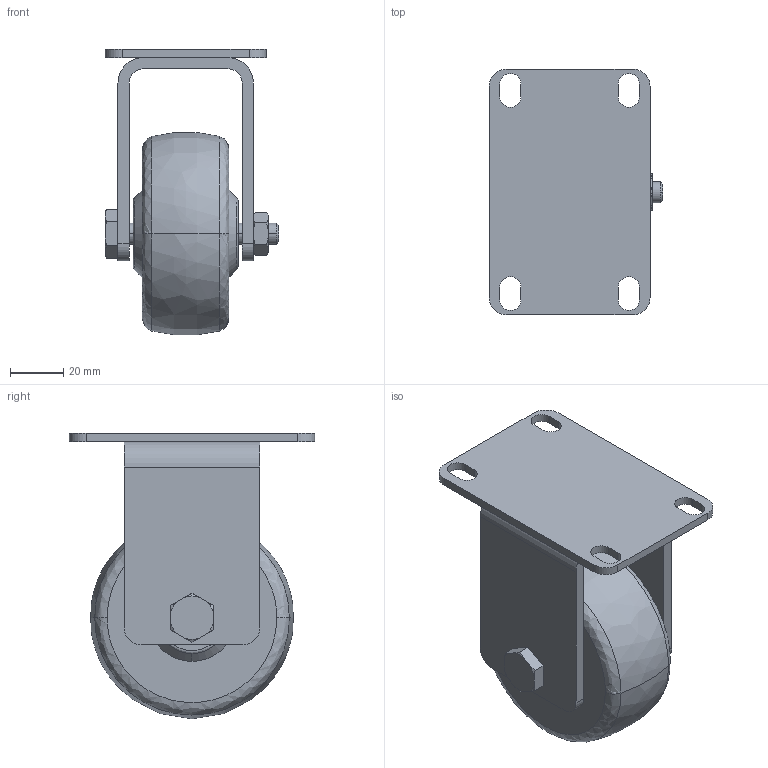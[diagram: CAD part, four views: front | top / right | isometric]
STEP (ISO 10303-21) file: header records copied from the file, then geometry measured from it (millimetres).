
FILE_DESCRIPTION (( 'STEP AP214' ), '1' );
FILE_NAME ('H0300521.STEP', '2014-02-11T16:09:50', ( 'Eric_Werenskjold' ), ( '' ), 'SwSTEP 2.0', 'SolidWorks 2014', '' );
FILE_SCHEMA (( 'AUTOMOTIVE_DESIGN' ));
Length unit declared in the file: inch
Products named in the file (1): H0300521
Bounding box: 65.09 x 92.08 x 107.14 mm (x, y, z)
Volume: 203367.1 mm3; surface area: 48687.8 mm2
Topology: 4 solids, 4 shells, 109 faces, 286 edges, 189 vertices
Faces by surface type: plane 44, cylinder 30, cone 25, bspline 10
Entity records: 3640 total; most frequent: CARTESIAN_POINT 867, ORIENTED_EDGE 572, DIRECTION 551, EDGE_CURVE 286, AXIS2_PLACEMENT_3D 209, VERTEX_POINT 189, LINE 133, VECTOR 133
